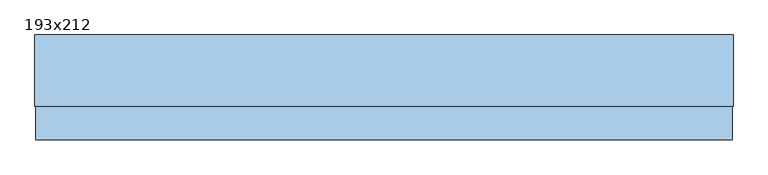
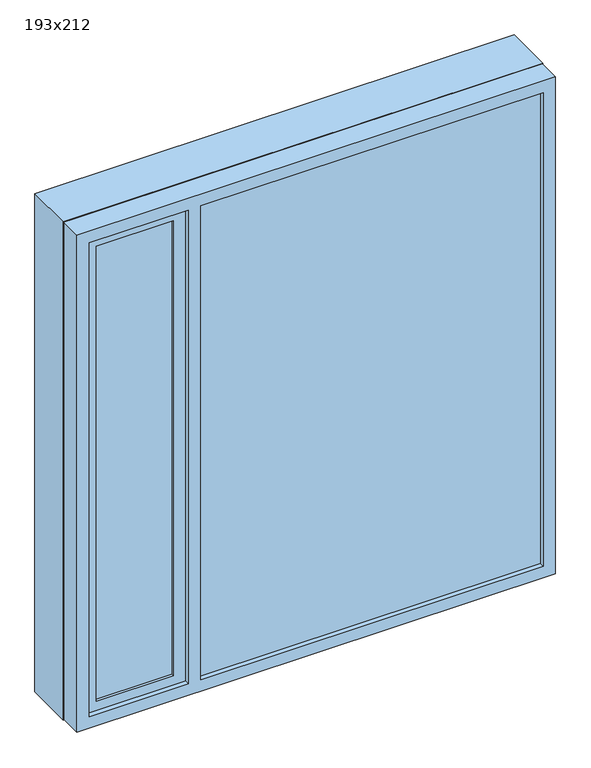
"""IFC4 building model written with IfcOpenShell, lengths in millimetres: window geometry, Vindu 2 felt med åpning side : 193x212."""

import ifcopenshell
import ifcopenshell.guid

model = None  # the IFC model being written
_history = None  # IfcOwnerHistory: only IFC2X3 demands one
_inside = {}  # id of a spatial element -> (the spatial element, [elements in it])
_under = {}  # id of a project, library or spatial element -> (it, [spatial elements below it])
_declared = {}  # id of a project -> (the project, [libraries it declares])
_typed = {}  # id of a type object -> (the type object, [elements of that type])
_made_of = {}  # id of a material, layer set ... -> (it, [elements and type objects made of it])


def new_model(schema):
    """Start an empty IFC model of exactly this schema.

    Asked for "IFC4X3", IfcOpenShell would pick the latest addendum, in which some entities
    have other attributes; the version numbers below select the first issue.
    IFC2X3 requires an IfcOwnerHistory on every rooted entity: one is made here for all.
    """
    global model, _history
    if schema == "IFC4X3":
        model = ifcopenshell.file(schema_version=(4, 3, 0, 0))
    else:
        model = ifcopenshell.file(schema=schema)
    _inside.clear()
    _under.clear()
    _declared.clear()
    _typed.clear()
    _made_of.clear()
    _history = None
    if model.schema == "IFC2X3":
        org = make("IfcOrganization", Name="unknown")
        user = make(
            "IfcPersonAndOrganization",
            ThePerson=make("IfcPerson", FamilyName="unknown"),
            TheOrganization=org,
        )
        app = make(
            "IfcApplication",
            ApplicationDeveloper=org,
            Version="unknown",
            ApplicationFullName="unknown",
            ApplicationIdentifier="unknown",
        )
        _history = make(
            "IfcOwnerHistory",
            OwningUser=user,
            OwningApplication=app,
            ChangeAction="ADDED",
            CreationDate=0,
        )
    return model


def make(cls, **values):
    """One entity of the class cls with the attributes given. An attribute that is None is left unset."""
    return model.create_entity(
        cls, **{name: value for name, value in values.items() if value is not None}
    )


def rooted(cls, **values):
    """An entity with a GlobalId (a new one), such as an element, a storey or a relation."""
    return make(cls, GlobalId=ifcopenshell.guid.new(), OwnerHistory=_history, **values)


def si_unit(unit_type, name, prefix=None):
    """IfcSIUnit, for example si_unit("LENGTHUNIT", "METRE", prefix="MILLI")."""
    return make("IfcSIUnit", UnitType=unit_type, Prefix=prefix, Name=name)


def assignment(units):
    """IfcUnitAssignment: the units of a project."""
    return None if units is None else make("IfcUnitAssignment", Units=units)


def point(xyz):
    """IfcCartesianPoint."""
    return None if xyz is None else make("IfcCartesianPoint", Coordinates=xyz)


def direction(xyz):
    """IfcDirection."""
    return None if xyz is None else make("IfcDirection", DirectionRatios=xyz)


def frame(location, z_axis=None, x_axis=None):
    """IfcAxis2Placement3D, a coordinate frame: its origin and axes. An axis left out is left unset."""
    return make(
        "IfcAxis2Placement3D",
        Location=point(location),
        Axis=direction(z_axis),
        RefDirection=direction(x_axis),
    )


def origin():
    """The frame at (0, 0, 0) with its axes left unset."""
    return frame((0.0, 0.0, 0.0))


def place(relative_to, where):
    """IfcLocalPlacement: puts the frame where relative to a parent placement (None: the world)."""
    return make(
        "IfcLocalPlacement", PlacementRelTo=relative_to, RelativePlacement=where
    )


def context(
    kind, dimensions, precision=None, world=None, true_north=None, identifier=None
):
    """IfcGeometricRepresentationContext, for example the 3D "Model" context."""
    return make(
        "IfcGeometricRepresentationContext",
        ContextIdentifier=identifier,
        ContextType=kind,
        CoordinateSpaceDimension=dimensions,
        Precision=precision,
        WorldCoordinateSystem=world,
        TrueNorth=true_north,
    )


def project(units=None, contexts=None):
    """IfcProject with its units and contexts."""
    return rooted(
        "IfcProject",
        Name="project",
        RepresentationContexts=contexts,
        UnitsInContext=assignment(units),
    )


def spatial(cls, under=None, at=None, **own):
    """A site, building, storey or space (cls), placed at a placement, below another one or the project."""
    s = rooted(cls, ObjectPlacement=at, **own)
    if under is not None:
        _under.setdefault(under.id(), (under, []))[1].append(s)
    return s


def polyline(points):
    """IfcPolyline through the points."""
    return make("IfcPolyline", Points=[point(p) for p in points])


def outline(outer, holes=None, kind="AREA"):
    """IfcArbitraryClosedProfileDef: a profile drawn as a closed curve; with holes, ...WithVoids."""
    if holes is None:
        return make("IfcArbitraryClosedProfileDef", ProfileType=kind, OuterCurve=outer)
    return make(
        "IfcArbitraryProfileDefWithVoids",
        ProfileType=kind,
        OuterCurve=outer,
        InnerCurves=holes,
    )


def extrude(swept, where, along, depth):
    """IfcExtrudedAreaSolid: the profile swept, set in the frame where, extruded along a direction by depth."""
    return make(
        "IfcExtrudedAreaSolid",
        SweptArea=swept,
        Position=where,
        ExtrudedDirection=direction(along),
        Depth=depth,
    )


def shape(context_of_items, identifier, shape_type, items):
    """IfcShapeRepresentation: the items that make up one representation, for example the "Body"."""
    return make(
        "IfcShapeRepresentation",
        ContextOfItems=context_of_items,
        RepresentationIdentifier=identifier,
        RepresentationType=shape_type,
        Items=items,
    )


def source(mapping_origin, context_of_items, identifier, shape_type, items):
    """IfcRepresentationMap: a shape defined once, which mapped items show again and again."""
    return make(
        "IfcRepresentationMap",
        MappingOrigin=mapping_origin,
        MappedRepresentation=shape(context_of_items, identifier, shape_type, items),
    )


def transform(
    local_origin,
    x_axis=None,
    y_axis=None,
    z_axis=None,
    scale=None,
    scale2=None,
    scale3=None,
    uniform=True,
):
    """IfcCartesianTransformationOperator3D, or its non-uniform kind. x_axis, y_axis, z_axis: its Axis1, 2, 3."""
    if uniform:
        return make(
            "IfcCartesianTransformationOperator3D",
            Axis1=direction(x_axis),
            Axis2=direction(y_axis),
            LocalOrigin=point(local_origin),
            Scale=scale,
            Axis3=direction(z_axis),
        )
    return make(
        "IfcCartesianTransformationOperator3DnonUniform",
        Axis1=direction(x_axis),
        Axis2=direction(y_axis),
        LocalOrigin=point(local_origin),
        Scale=scale,
        Axis3=direction(z_axis),
        Scale2=scale2,
        Scale3=scale3,
    )


def mapped(mapping_source, mapping_target):
    """IfcMappedItem: shows the shape of a source again, moved by a transform."""
    return make(
        "IfcMappedItem", MappingSource=mapping_source, MappingTarget=mapping_target
    )


def made_of(thing, what):
    """Note that an element or type object is made of a material, layer set ...; save() writes the relation."""
    if what is not None:
        _made_of.setdefault(what.id(), (what, []))[1].append(thing)
    return thing


def element(
    cls,
    number,
    at=None,
    inside=None,
    cuts=None,
    type_object=None,
    material=None,
    context=None,
    identifier="Body",
    shape_type=None,
    held_by="IfcProductDefinitionShape",
    body=None,
    shapes=None,
    **own,
):
    """One element of the class cls, such as IfcWall. Its Tag is "e" and its number.

    at: its placement. inside: the storey or other place that contains it. cuts: it is an
    opening in that element (IfcRelVoidsElement). A single representation is given by context,
    identifier, shape_type and body (its items); several are given by shapes. held_by: the class
    of the entity that holds the representations. save() writes the other relations.
    """
    e = rooted(cls, Tag="e%d" % number, ObjectPlacement=at, **own)
    if body is not None:
        shapes = [shape(context, identifier, shape_type, body)]
    if shapes is not None:
        e.Representation = make(held_by, Representations=shapes)
    if inside is not None:
        _inside.setdefault(inside.id(), (inside, []))[1].append(e)
    if cuts is not None:
        rooted(
            "IfcRelVoidsElement", RelatingBuildingElement=cuts, RelatedOpeningElement=e
        )
    if type_object is not None:
        _typed.setdefault(type_object.id(), (type_object, []))[1].append(e)
    return made_of(e, material)


def aggregate(whole, parts):
    """IfcRelAggregates: a whole, such as a stair, and the parts it consists of."""
    return rooted("IfcRelAggregates", RelatingObject=whole, RelatedObjects=parts)


def save(model, path):
    """Write the relations noted so far, then the file.

    IfcRelAggregates (storeys below a building ...), IfcRelContainedInSpatialStructure (elements
    in a storey), IfcRelDefinesByType, IfcRelAssociatesMaterial and IfcRelDeclares: one each for
    every whole, place, type object, material and project.
    """
    for whole, parts in _under.values():
        aggregate(whole, parts)
    for where, things in _inside.values():
        rooted(
            "IfcRelContainedInSpatialStructure",
            RelatedElements=things,
            RelatingStructure=where,
        )
    for kind, things in _typed.values():
        rooted("IfcRelDefinesByType", RelatedObjects=things, RelatingType=kind)
    for what, things in _made_of.values():
        rooted("IfcRelAssociatesMaterial", RelatedObjects=things, RelatingMaterial=what)
    for by, libraries in _declared.values():
        rooted("IfcRelDeclares", RelatingContext=by, RelatedDefinitions=libraries)
    model.write(path)


def window_193x212_32d242da(model_context):
    return source(origin(), model_context, "Body", "SweptSolid", [
        extrude(outline(polyline([(-507.3982693, -95.0), (-507.3982693, -75.0), (872.6017307, -75.0), (872.6017307, -95.0), (-507.3982693, -95.0)])), frame((0.0, 0.0, 852.0), z_axis=(0.0, 0.0, 1.0), x_axis=(1.0, 0.0, 0.0)), (0.0, 0.0, 1.0), 2020.0),
        extrude(outline(polyline([(2872.0, -557.3982693), (2872.0, -957.3982693), (852.0, -957.3982693), (852.0, -557.3982693), (2872.0, -557.3982693)]), holes=[polyline([(892.0, -917.3982693), (2832.0, -917.3982693), (2832.0, -607.3982693), (892.0, -607.3982693), (892.0, -917.3982693)])]), frame((0.0, -95.0, 0.0), z_axis=(0.0, 1.0, 0.0), x_axis=(0.0, 0.0, 1.0)), (0.0, 0.0, 1.0), 40.0),
        extrude(outline(polyline([(800.0, 924.6017307), (2924.0, 924.6017307), (2924.0, -1009.3982693), (800.0, -1009.3982693), (800.0, 924.6017307)]), holes=[polyline([(807.0, 917.6017307), (807.0, -1002.3982693), (2917.0, -1002.3982693), (2917.0, 917.6017307), (807.0, 917.6017307)])]), frame((0.0, -23.0, 0.0), z_axis=(0.0, 1.0, 0.0), x_axis=(0.0, 0.0, 1.0)), (0.0, 0.0, 1.0), 198.0),
        extrude(outline(polyline([(-917.3982693, -85.0), (-917.3982693, -65.0), (-607.3982693, -65.0), (-607.3982693, -85.0), (-917.3982693, -85.0)])), frame((0.0, 0.0, 892.0), z_axis=(0.0, 0.0, 1.0), x_axis=(1.0, 0.0, 0.0)), (0.0, 0.0, 1.0), 1940.0),
        extrude(outline(polyline([(2922.0, -1007.3982693), (802.0, -1007.3982693), (802.0, 922.6017307), (2922.0, 922.6017307), (2922.0, -1007.3982693)]), holes=[polyline([(2872.0, -557.3982693), (852.0, -557.3982693), (852.0, -957.3982693), (2872.0, -957.3982693), (2872.0, -557.3982693)]), polyline([(2872.0, -507.3982693), (2872.0, 872.6017307), (852.0, 872.6017307), (852.0, -507.3982693), (2872.0, -507.3982693)])]), frame((0.0, -115.0, 0.0), z_axis=(0.0, 1.0, 0.0), x_axis=(0.0, 0.0, 1.0)), (0.0, 0.0, 1.0), 92.0),
    ])


if __name__ == "__main__":
    model = new_model("IFC4")
    model_context = context("Model", 3, world=origin())
    ifc_project = project(units=[si_unit("LENGTHUNIT", "METRE", prefix="MILLI")], contexts=[model_context])
    site = spatial("IfcSite", under=ifc_project)
    building = spatial("IfcBuilding", under=site)
    placement = place(None, origin())
    window_193x212_shape = window_193x212_32d242da(model_context)
    element("IfcWindow", 1, ObjectType="Vindu 2 felt med åpning side : 193x212", at=placement, inside=building, context=model_context, shape_type="MappedRepresentation", body=[
        mapped(window_193x212_shape, transform((0.0, 0.0, 0.0), x_axis=(1.0, 0.0, 0.0), y_axis=(0.0, 1.0, 0.0), z_axis=(0.0, 0.0, 1.0))),
    ])
    save(model, "model.ifc")
